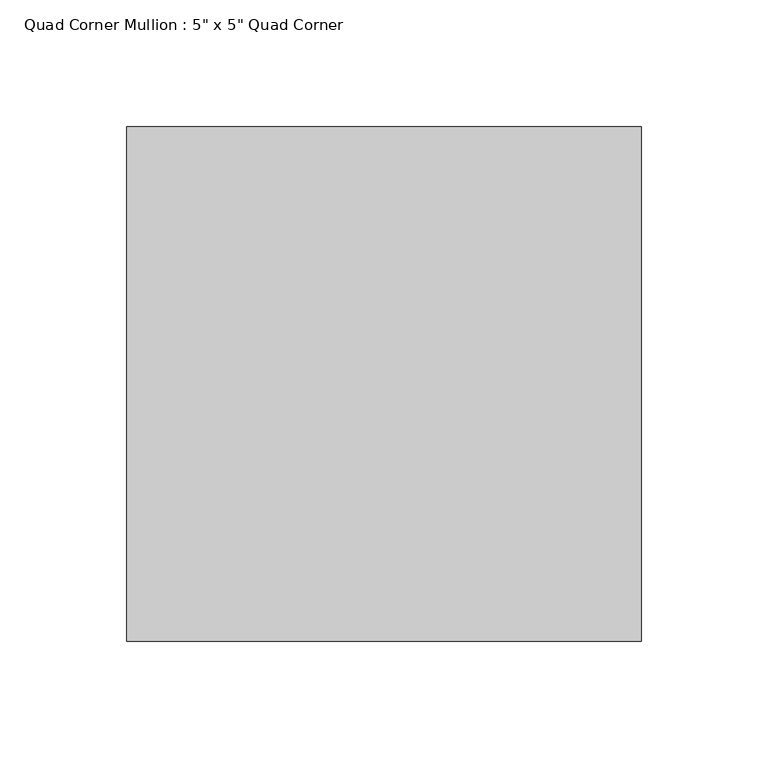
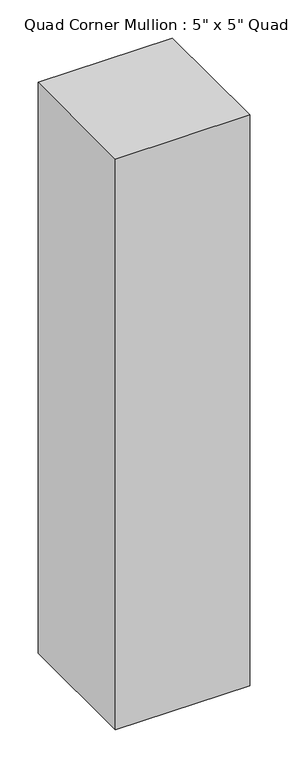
"""IFC4 building model written with IfcOpenShell, lengths in millimetres: member geometry."""

import ifcopenshell
import ifcopenshell.guid

model = None  # the IFC model being written
_history = None  # IfcOwnerHistory: only IFC2X3 demands one
_inside = {}  # id of a spatial element -> (the spatial element, [elements in it])
_under = {}  # id of a project, library or spatial element -> (it, [spatial elements below it])
_declared = {}  # id of a project -> (the project, [libraries it declares])
_typed = {}  # id of a type object -> (the type object, [elements of that type])
_made_of = {}  # id of a material, layer set ... -> (it, [elements and type objects made of it])


def new_model(schema):
    """Start an empty IFC model of exactly this schema.

    Asked for "IFC4X3", IfcOpenShell would pick the latest addendum, in which some entities
    have other attributes; the version numbers below select the first issue.
    IFC2X3 requires an IfcOwnerHistory on every rooted entity: one is made here for all.
    """
    global model, _history
    if schema == "IFC4X3":
        model = ifcopenshell.file(schema_version=(4, 3, 0, 0))
    else:
        model = ifcopenshell.file(schema=schema)
    _inside.clear()
    _under.clear()
    _declared.clear()
    _typed.clear()
    _made_of.clear()
    _history = None
    if model.schema == "IFC2X3":
        org = make("IfcOrganization", Name="unknown")
        user = make(
            "IfcPersonAndOrganization",
            ThePerson=make("IfcPerson", FamilyName="unknown"),
            TheOrganization=org,
        )
        app = make(
            "IfcApplication",
            ApplicationDeveloper=org,
            Version="unknown",
            ApplicationFullName="unknown",
            ApplicationIdentifier="unknown",
        )
        _history = make(
            "IfcOwnerHistory",
            OwningUser=user,
            OwningApplication=app,
            ChangeAction="ADDED",
            CreationDate=0,
        )
    return model


def make(cls, **values):
    """One entity of the class cls with the attributes given. An attribute that is None is left unset."""
    return model.create_entity(
        cls, **{name: value for name, value in values.items() if value is not None}
    )


def rooted(cls, **values):
    """An entity with a GlobalId (a new one), such as an element, a storey or a relation."""
    return make(cls, GlobalId=ifcopenshell.guid.new(), OwnerHistory=_history, **values)


def si_unit(unit_type, name, prefix=None):
    """IfcSIUnit, for example si_unit("LENGTHUNIT", "METRE", prefix="MILLI")."""
    return make("IfcSIUnit", UnitType=unit_type, Prefix=prefix, Name=name)


def assignment(units):
    """IfcUnitAssignment: the units of a project."""
    return None if units is None else make("IfcUnitAssignment", Units=units)


def point(xyz):
    """IfcCartesianPoint."""
    return None if xyz is None else make("IfcCartesianPoint", Coordinates=xyz)


def direction(xyz):
    """IfcDirection."""
    return None if xyz is None else make("IfcDirection", DirectionRatios=xyz)


def frame(location, z_axis=None, x_axis=None):
    """IfcAxis2Placement3D, a coordinate frame: its origin and axes. An axis left out is left unset."""
    return make(
        "IfcAxis2Placement3D",
        Location=point(location),
        Axis=direction(z_axis),
        RefDirection=direction(x_axis),
    )


def origin():
    """The frame at (0, 0, 0) with its axes left unset."""
    return frame((0.0, 0.0, 0.0))


def place(relative_to, where):
    """IfcLocalPlacement: puts the frame where relative to a parent placement (None: the world)."""
    return make(
        "IfcLocalPlacement", PlacementRelTo=relative_to, RelativePlacement=where
    )


def context(
    kind, dimensions, precision=None, world=None, true_north=None, identifier=None
):
    """IfcGeometricRepresentationContext, for example the 3D "Model" context."""
    return make(
        "IfcGeometricRepresentationContext",
        ContextIdentifier=identifier,
        ContextType=kind,
        CoordinateSpaceDimension=dimensions,
        Precision=precision,
        WorldCoordinateSystem=world,
        TrueNorth=true_north,
    )


def project(units=None, contexts=None):
    """IfcProject with its units and contexts."""
    return rooted(
        "IfcProject",
        Name="project",
        RepresentationContexts=contexts,
        UnitsInContext=assignment(units),
    )


def spatial(cls, under=None, at=None, **own):
    """A site, building, storey or space (cls), placed at a placement, below another one or the project."""
    s = rooted(cls, ObjectPlacement=at, **own)
    if under is not None:
        _under.setdefault(under.id(), (under, []))[1].append(s)
    return s


def polyline(points):
    """IfcPolyline through the points."""
    return make("IfcPolyline", Points=[point(p) for p in points])


def outline(outer, holes=None, kind="AREA"):
    """IfcArbitraryClosedProfileDef: a profile drawn as a closed curve; with holes, ...WithVoids."""
    if holes is None:
        return make("IfcArbitraryClosedProfileDef", ProfileType=kind, OuterCurve=outer)
    return make(
        "IfcArbitraryProfileDefWithVoids",
        ProfileType=kind,
        OuterCurve=outer,
        InnerCurves=holes,
    )


def extrude(swept, where, along, depth):
    """IfcExtrudedAreaSolid: the profile swept, set in the frame where, extruded along a direction by depth."""
    return make(
        "IfcExtrudedAreaSolid",
        SweptArea=swept,
        Position=where,
        ExtrudedDirection=direction(along),
        Depth=depth,
    )


def shape(context_of_items, identifier, shape_type, items):
    """IfcShapeRepresentation: the items that make up one representation, for example the "Body"."""
    return make(
        "IfcShapeRepresentation",
        ContextOfItems=context_of_items,
        RepresentationIdentifier=identifier,
        RepresentationType=shape_type,
        Items=items,
    )


def source(mapping_origin, context_of_items, identifier, shape_type, items):
    """IfcRepresentationMap: a shape defined once, which mapped items show again and again."""
    return make(
        "IfcRepresentationMap",
        MappingOrigin=mapping_origin,
        MappedRepresentation=shape(context_of_items, identifier, shape_type, items),
    )


def transform(
    local_origin,
    x_axis=None,
    y_axis=None,
    z_axis=None,
    scale=None,
    scale2=None,
    scale3=None,
    uniform=True,
):
    """IfcCartesianTransformationOperator3D, or its non-uniform kind. x_axis, y_axis, z_axis: its Axis1, 2, 3."""
    if uniform:
        return make(
            "IfcCartesianTransformationOperator3D",
            Axis1=direction(x_axis),
            Axis2=direction(y_axis),
            LocalOrigin=point(local_origin),
            Scale=scale,
            Axis3=direction(z_axis),
        )
    return make(
        "IfcCartesianTransformationOperator3DnonUniform",
        Axis1=direction(x_axis),
        Axis2=direction(y_axis),
        LocalOrigin=point(local_origin),
        Scale=scale,
        Axis3=direction(z_axis),
        Scale2=scale2,
        Scale3=scale3,
    )


def mapped(mapping_source, mapping_target):
    """IfcMappedItem: shows the shape of a source again, moved by a transform."""
    return make(
        "IfcMappedItem", MappingSource=mapping_source, MappingTarget=mapping_target
    )


def made_of(thing, what):
    """Note that an element or type object is made of a material, layer set ...; save() writes the relation."""
    if what is not None:
        _made_of.setdefault(what.id(), (what, []))[1].append(thing)
    return thing


def element(
    cls,
    number,
    at=None,
    inside=None,
    cuts=None,
    type_object=None,
    material=None,
    context=None,
    identifier="Body",
    shape_type=None,
    held_by="IfcProductDefinitionShape",
    body=None,
    shapes=None,
    **own,
):
    """One element of the class cls, such as IfcWall. Its Tag is "e" and its number.

    at: its placement. inside: the storey or other place that contains it. cuts: it is an
    opening in that element (IfcRelVoidsElement). A single representation is given by context,
    identifier, shape_type and body (its items); several are given by shapes. held_by: the class
    of the entity that holds the representations. save() writes the other relations.
    """
    e = rooted(cls, Tag="e%d" % number, ObjectPlacement=at, **own)
    if body is not None:
        shapes = [shape(context, identifier, shape_type, body)]
    if shapes is not None:
        e.Representation = make(held_by, Representations=shapes)
    if inside is not None:
        _inside.setdefault(inside.id(), (inside, []))[1].append(e)
    if cuts is not None:
        rooted(
            "IfcRelVoidsElement", RelatingBuildingElement=cuts, RelatedOpeningElement=e
        )
    if type_object is not None:
        _typed.setdefault(type_object.id(), (type_object, []))[1].append(e)
    return made_of(e, material)


def aggregate(whole, parts):
    """IfcRelAggregates: a whole, such as a stair, and the parts it consists of."""
    return rooted("IfcRelAggregates", RelatingObject=whole, RelatedObjects=parts)


def save(model, path):
    """Write the relations noted so far, then the file.

    IfcRelAggregates (storeys below a building ...), IfcRelContainedInSpatialStructure (elements
    in a storey), IfcRelDefinesByType, IfcRelAssociatesMaterial and IfcRelDeclares: one each for
    every whole, place, type object, material and project.
    """
    for whole, parts in _under.values():
        aggregate(whole, parts)
    for where, things in _inside.values():
        rooted(
            "IfcRelContainedInSpatialStructure",
            RelatedElements=things,
            RelatingStructure=where,
        )
    for kind, things in _typed.values():
        rooted("IfcRelDefinesByType", RelatedObjects=things, RelatingType=kind)
    for what, things in _made_of.values():
        rooted("IfcRelAssociatesMaterial", RelatedObjects=things, RelatingMaterial=what)
    for by, libraries in _declared.values():
        rooted("IfcRelDeclares", RelatingContext=by, RelatedDefinitions=libraries)
    model.write(path)


def member_aa6b0ad5(model_context):
    return source(origin(), model_context, "Body", "SweptSolid", [
        extrude(outline(polyline([(69.85, 133.35), (69.85, -69.85), (-133.35, -69.85), (-133.35, 133.35), (69.85, 133.35)])), frame((0.0, 0.0, -914.4), z_axis=(0.0, 0.0, 1.0), x_axis=(1.0, 0.0, 0.0)), (0.0, 0.0, 1.0), 914.4),
    ])


if __name__ == "__main__":
    model = new_model("IFC4")
    model_context = context("Model", 3, world=origin())
    ifc_project = project(units=[si_unit("LENGTHUNIT", "METRE", prefix="MILLI")], contexts=[model_context])
    site = spatial("IfcSite", under=ifc_project)
    building = spatial("IfcBuilding", under=site)
    placement = place(None, origin())
    member_shape = member_aa6b0ad5(model_context)
    element("IfcMember", 1, ObjectType="Quad Corner Mullion : 5\" x 5\" Quad Corner", at=placement, inside=building, context=model_context, shape_type="MappedRepresentation", body=[
        mapped(member_shape, transform((0.0, 0.0, 0.0), x_axis=(1.0, 0.0, 0.0), y_axis=(0.0, 1.0, 0.0), z_axis=(0.0, 0.0, 1.0))),
    ])
    save(model, "model.ifc")
